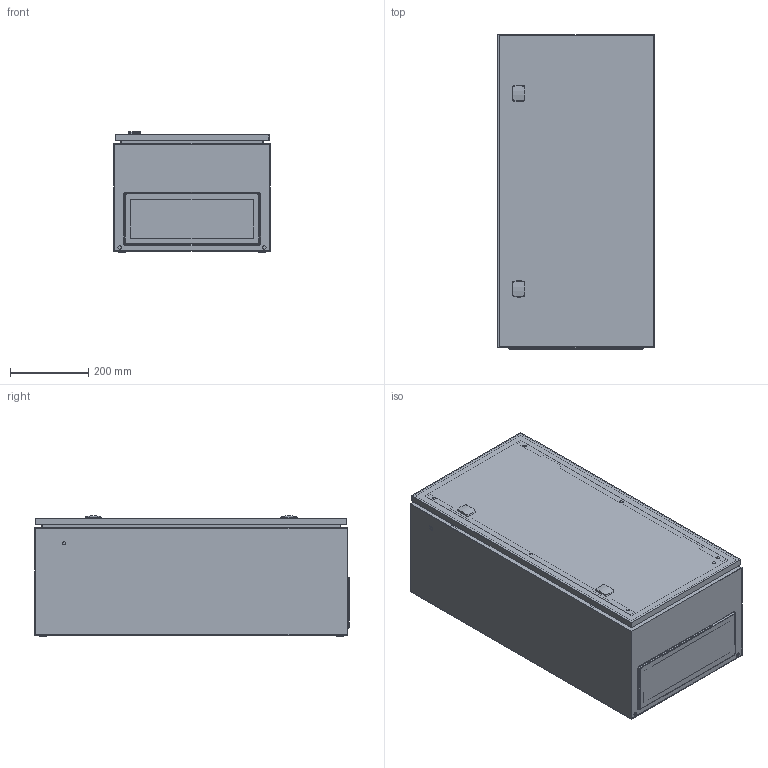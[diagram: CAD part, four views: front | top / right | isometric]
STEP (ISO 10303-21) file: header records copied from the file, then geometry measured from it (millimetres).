
FILE_DESCRIPTION(/* description */ ('STEP AP203'),/* implementation_level */ '2;1');
FILE_NAME(/* name */ 'MAS0804030R5(0)',/* time_stamp */ '2024-03-14T13:37:31+01:00',/* author */ ('License CC BY-ND 4.0'),/* organization */ ('CADENAS'),/* preprocessor_version */ 'ST-DEVELOPER v19.3',/* originating_system */ 'PARTsolutions',/* authorisation */ ' ');
FILE_SCHEMA (('CONFIG_CONTROL_DESIGN'));
Length unit declared in the file: millimetre
Products named in the file (8): MAS0804030R5(0); MAS0804030(0); MMSH06SS(0)_right; ADP08040R5(0); ALL503(0,0); AMP08040_MPL(0); AF02R5_GP(0); AG02_GPG(0)
Assembly tree (9 placements, depth 2):
  MAS0804030R5(0)
    MAS0804030(0)
    MMSH06SS(0)_right  x2
    ADP08040R5(0)
    ALL503(0,0)  x2
    AMP08040_MPL(0)
    AF02R5_GP(0)
    AG02_GPG(0)
Bounding box: 400 x 803.9 x 307.67 mm (x, y, z)
Volume: 3303925.2 mm3; surface area: 3608612.7 mm2
Topology: 9 solids, 9 shells, 604 faces, 1487 edges, 971 vertices
Faces by surface type: plane 413, cylinder 128, cone 59, torus 4
Full cylindrical faces by diameter (mm): 4.9 x2, 6 x6, 6.5 x2, 7 x6, 8 x7, 8.5 x4, 8.7 x2, 9 x2, 14 x7, 18 x2, 27 x2
Entity records: 15298 total; most frequent: CARTESIAN_POINT 2604, DIRECTION 2474, ORIENTED_EDGE 2330, EDGE_CURVE 1165, LINE 844, VECTOR 844, AXIS2_PLACEMENT_3D 815, VERTEX_POINT 811
